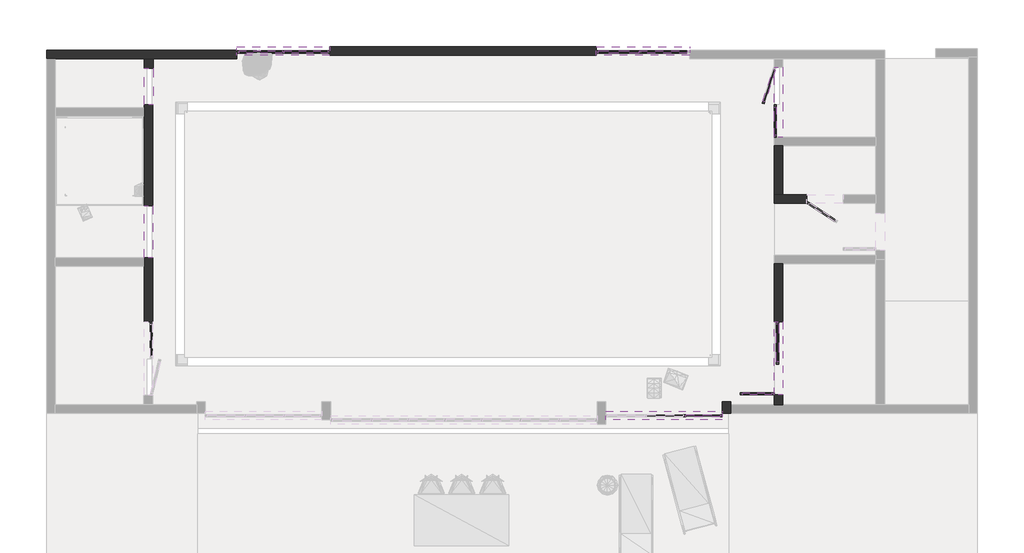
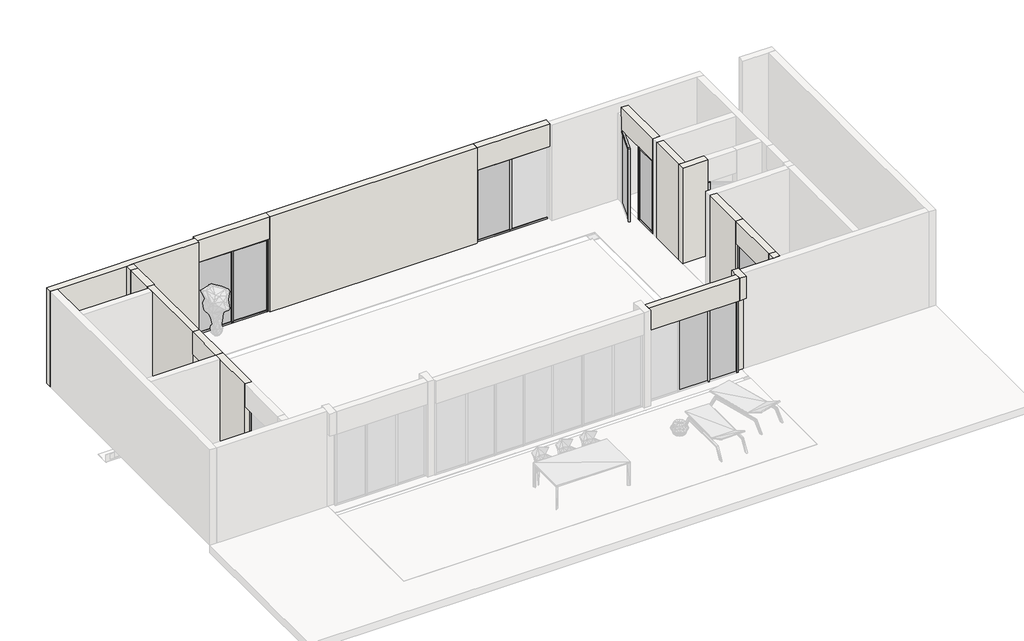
# One storey, part 2 of 3: 34 members, 29 walls, 9 plates.
"""IFC4 building model written with IfcOpenShell, lengths in millimetres."""

from ifc_helpers import new_model, si_unit, frame, origin, origin_with_axes, place, context, project, spatial, polyline, outline, extrude, faceted_brep, transform, mapped, element, save
from components import montante_rectangular_montante_cuadrado_50x50mm_acero_813f6996, montante_rectangular_montante_cuadrado_50x50mm_acero_b99420d8, montante_rectangular_montante_cuadrado_50x50mm_acero_83e1ad39, montante_rectangular_montante_cuadrado_50x50mm_acero_4309ca22, montante_rectangular_montante_cuadrado_50x50mm_acero_b2469dea, montante_rectangular_montante_cuadrado_50x50mm_acero_1148ac7a, montante_rectangular_montante_cuadrado_50x50mm_acero_c9ce966c, montante_rectangular_montante_cuadrado_50x50mm_acero_77c015a5, montante_rectangular_montante_cuadrado_50x50mm_acero_ab25841c, montante_rectangular_montante_cuadrado_50x50mm_acero_d515245e, montante_rectangular_montante_cuadrado_50x50mm_acero_e79a9981, montante_rectangular_montante_cuadrado_50x50mm_acero_05cd54b4, montante_rectangular_montante_cuadrado_50x50mm_acero_2ac5a09f, montante_rectangular_montante_cuadrado_50x50mm_acero_f065012c, montante_rectangular_montante_cuadrado_50x50mm_acero_bf3a267d, montante_rectangular_montante_cuadrado_50x50mm_acero_eaf32c76, montante_rectangular_montante_cuadrado_50x50mm_acero_c8872730, montante_rectangular_montante_cuadrado_50x50mm_acero_14ec3dc0, montante_rectangular_montante_cuadrado_50x50mm_acero_5c9733f6, montante_rectangular_montante_cuadrado_50x50mm_acero_ee5e875f, montante_rectangular_montante_cuadrado_50x50mm_acero_c6ae027b, montante_rectangular_montante_cuadrado_50x50mm_acero_eb120289, montante_rectangular_montante_cuadrado_50x50mm_acero_b4ac1162, montante_rectangular_montante_cuadrado_50x50mm_acero_5bb13b4b, panel_acristalado_panel_acristalado_1cm_45a3c1e2, panel_acristalado_panel_acristalado_1cm_c8c176f6, panel_acristalado_panel_acristalado_1cm_53ca7ac7, panel_acristalado_panel_acristalado_1cm_8548f812, panel_acristalado_panel_acristalado_1cm_0ca00538, panel_acristalado_panel_acristalado_1cm_0280032a, panel_acristalado_panel_acristalado_1cm_0bcb4719, panel_acristalado_panel_acristalado_1cm_c6dde98c, panel_acristalado_panel_acristalado_1cm_dcff6931

model = new_model("IFC4")

# Units and contexts
model_context = context("Model", 3, world=origin())
ifc_project = project(units=[si_unit("LENGTHUNIT", "METRE", prefix="MILLI")], contexts=[model_context])

# Site, building, storey
site = spatial("IfcSite", under=ifc_project)
building = spatial("IfcBuilding", under=site)
storey = spatial("IfcBuildingStorey", under=building, Name="1_NPlaya", Elevation=0.0)

# Members
placement = place(None, origin())
montante_rectangular_montante_cuadrado_50x50mm_acero_shape = montante_rectangular_montante_cuadrado_50x50mm_acero_813f6996(model_context)
element("IfcMember", 1, ObjectType="Montante rectangular : Montante cuadrado 50x50mm_Acero", at=placement, inside=storey, context=model_context, shape_type="MappedRepresentation", body=[
    mapped(montante_rectangular_montante_cuadrado_50x50mm_acero_shape, transform((467.0093267, 8199.7270206, 0.0), x_axis=(0.0, 0.0, -1.0), y_axis=(-1.0, 0.0, 0.0), z_axis=(0.0, 1.0, 0.0))),
])
montante_rectangular_montante_cuadrado_50x50mm_acero_2_shape = montante_rectangular_montante_cuadrado_50x50mm_acero_b99420d8(model_context)
element("IfcMember", 2, ObjectType="Montante rectangular : Montante cuadrado 50x50mm_Acero", at=placement, inside=storey, context=model_context, shape_type="MappedRepresentation", body=[
    mapped(montante_rectangular_montante_cuadrado_50x50mm_acero_2_shape, transform((14974.0093267, 13277.7270206, 0.0), x_axis=(0.0, 1.0, 0.0), y_axis=(1.0, 0.0, 0.0), z_axis=(0.0, 0.0, -1.0))),
])
element("IfcMember", 3, ObjectType="Montante rectangular : Montante cuadrado 50x50mm_Acero", at=placement, inside=storey, context=model_context, shape_type="MappedRepresentation", body=[
    mapped(montante_rectangular_montante_cuadrado_50x50mm_acero_2_shape, transform((14972.5093262, 7271.628904, 0.0), x_axis=(0.0, -1.0, 0.0), y_axis=(-1.0, 0.0, 0.0), z_axis=(0.0, 0.0, -1.0))),
])
element("IfcMember", 4, ObjectType="Montante rectangular : Montante cuadrado 50x50mm_Acero", at=placement, inside=storey, context=model_context, shape_type="MappedRepresentation", body=[
    mapped(montante_rectangular_montante_cuadrado_50x50mm_acero_2_shape, transform((4629.8909719, 14478.7270241, 0.0), x_axis=(1.0, 0.0, 0.0), y_axis=(0.0, -1.0, 0.0), z_axis=(0.0, 0.0, -1.0))),
])
element("IfcMember", 5, ObjectType="Montante rectangular : Montante cuadrado 50x50mm_Acero", at=placement, inside=storey, context=model_context, shape_type="MappedRepresentation", body=[
    mapped(montante_rectangular_montante_cuadrado_50x50mm_acero_2_shape, transform((13720.5093267, 6053.7270206, 0.0), x_axis=(1.0, 0.0, 0.0), y_axis=(0.0, -1.0, 0.0), z_axis=(0.0, 0.0, -1.0))),
])
element("IfcMember", 6, ObjectType="Montante rectangular : Montante cuadrado 50x50mm_Acero", at=placement, inside=storey, context=model_context, shape_type="MappedRepresentation", body=[
    mapped(montante_rectangular_montante_cuadrado_50x50mm_acero_2_shape, transform((14644.2731847, 13313.727027, 0.0), x_axis=(-0.30901699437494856, -0.9510565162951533, 0.0), y_axis=(-0.9510565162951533, 0.30901699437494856, 0.0), z_axis=(0.0, 0.0, -1.0))),
])
montante_rectangular_montante_cuadrado_50x50mm_acero_3_shape = montante_rectangular_montante_cuadrado_50x50mm_acero_83e1ad39(model_context)
element("IfcMember", 7, ObjectType="Montante rectangular : Montante cuadrado 50x50mm_Acero", at=placement, inside=storey, context=model_context, shape_type="MappedRepresentation", body=[
    mapped(montante_rectangular_montante_cuadrado_50x50mm_acero_3_shape, transform((467.0093267, 8249.7270206, 2300.0), x_axis=(0.0, 1.0, 0.0), y_axis=(-1.0, 0.0, 0.0), z_axis=(0.0, 0.0, 1.0))),
])
element("IfcMember", 8, ObjectType="Montante rectangular : Montante cuadrado 50x50mm_Acero", at=placement, inside=storey, context=model_context, shape_type="MappedRepresentation", body=[
    mapped(montante_rectangular_montante_cuadrado_50x50mm_acero_3_shape, transform((14974.0093267, 12527.7270206, 2300.0), x_axis=(0.0, -1.0, 0.0), y_axis=(1.0, 0.0, 0.0), z_axis=(0.0, 0.0, 1.0))),
])
element("IfcMember", 9, ObjectType="Montante rectangular : Montante cuadrado 50x50mm_Acero", at=placement, inside=storey, context=model_context, shape_type="MappedRepresentation", body=[
    mapped(montante_rectangular_montante_cuadrado_50x50mm_acero_3_shape, transform((14972.5093262, 8251.628904, 2300.0), x_axis=(0.0, 1.0, 0.0), y_axis=(-1.0, 0.0, 0.0), z_axis=(0.0, 0.0, 1.0))),
])
element("IfcMember", 10, ObjectType="Montante rectangular : Montante cuadrado 50x50mm_Acero", at=placement, inside=storey, context=model_context, shape_type="MappedRepresentation", body=[
    mapped(montante_rectangular_montante_cuadrado_50x50mm_acero_3_shape, transform((10799.3610615, 14478.7270206, 2300.0), x_axis=(-1.0, 0.0, 0.0), y_axis=(0.0, -1.0, 0.0), z_axis=(0.0, 0.0, 1.0))),
])
element("IfcMember", 11, ObjectType="Montante rectangular : Montante cuadrado 50x50mm_Acero", at=placement, inside=storey, context=model_context, shape_type="MappedRepresentation", body=[
    mapped(montante_rectangular_montante_cuadrado_50x50mm_acero_3_shape, transform((2475.89097, 14478.7270241, 2300.0), x_axis=(-1.0, 0.0, 0.0), y_axis=(0.0, -1.0, 0.0), z_axis=(0.0, 0.0, 1.0))),
])
element("IfcMember", 12, ObjectType="Montante rectangular : Montante cuadrado 50x50mm_Acero", at=placement, inside=storey, context=model_context, shape_type="MappedRepresentation", body=[
    mapped(montante_rectangular_montante_cuadrado_50x50mm_acero_3_shape, transform((15677.7510891, 10993.1760334, 2300.0), x_axis=(-0.8386705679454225, 0.5446390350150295, 0.0), y_axis=(-0.5446390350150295, -0.8386705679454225, 0.0), z_axis=(0.0, 0.0, 1.0))),
])
montante_rectangular_montante_cuadrado_50x50mm_acero_4_shape = montante_rectangular_montante_cuadrado_50x50mm_acero_4309ca22(model_context)
element("IfcMember", 13, ObjectType="Montante rectangular : Montante cuadrado 50x50mm_Acero", at=placement, inside=storey, context=model_context, shape_type="MappedRepresentation", body=[
    mapped(montante_rectangular_montante_cuadrado_50x50mm_acero_4_shape, transform((14974.0093267, 13227.7270206, 2300.0), x_axis=(0.0, 0.0, 1.0), y_axis=(1.0, 0.0, 0.0), z_axis=(0.0, 1.0, 0.0))),
])
montante_rectangular_montante_cuadrado_50x50mm_acero_5_shape = montante_rectangular_montante_cuadrado_50x50mm_acero_b2469dea(model_context)
element("IfcMember", 14, ObjectType="Montante rectangular : Montante cuadrado 50x50mm_Acero", at=placement, inside=storey, context=model_context, shape_type="MappedRepresentation", body=[
    mapped(montante_rectangular_montante_cuadrado_50x50mm_acero_5_shape, transform((14974.0093267, 12577.7270206, 0.0), x_axis=(0.0, 0.0, -1.0), y_axis=(1.0, 0.0, 0.0), z_axis=(0.0, -1.0, 0.0))),
])
montante_rectangular_montante_cuadrado_50x50mm_acero_6_shape = montante_rectangular_montante_cuadrado_50x50mm_acero_1148ac7a(model_context)
element("IfcMember", 15, ObjectType="Montante rectangular : Montante cuadrado 50x50mm_Acero", at=placement, inside=storey, context=model_context, shape_type="MappedRepresentation", body=[
    mapped(montante_rectangular_montante_cuadrado_50x50mm_acero_6_shape, transform((12913.3610627, 14478.7270206, 2300.0), x_axis=(0.0, 0.0, 1.0), y_axis=(0.0, -1.0, 0.0), z_axis=(1.0, 0.0, 0.0))),
])
montante_rectangular_montante_cuadrado_50x50mm_acero_7_shape = montante_rectangular_montante_cuadrado_50x50mm_acero_c9ce966c(model_context)
element("IfcMember", 16, ObjectType="Montante rectangular : Montante cuadrado 50x50mm_Acero", at=placement, inside=storey, context=model_context, shape_type="MappedRepresentation", body=[
    mapped(montante_rectangular_montante_cuadrado_50x50mm_acero_7_shape, transform((10849.3610615, 14478.7270206, 0.0), x_axis=(0.0, 0.0, -1.0), y_axis=(0.0, -1.0, 0.0), z_axis=(-1.0, 0.0, 0.0))),
])
montante_rectangular_montante_cuadrado_50x50mm_acero_8_shape = montante_rectangular_montante_cuadrado_50x50mm_acero_77c015a5(model_context)
element("IfcMember", 17, ObjectType="Montante rectangular : Montante cuadrado 50x50mm_Acero", at=placement, inside=storey, context=model_context, shape_type="MappedRepresentation", body=[
    mapped(montante_rectangular_montante_cuadrado_50x50mm_acero_8_shape, transform((11799.3610615, 14478.7270206, 2300.0), x_axis=(0.0, 0.0, 1.0), y_axis=(0.0, -1.0, 0.0), z_axis=(1.0, 0.0, 0.0))),
])
montante_rectangular_montante_cuadrado_50x50mm_acero_9_shape = montante_rectangular_montante_cuadrado_50x50mm_acero_ab25841c(model_context)
element("IfcMember", 18, ObjectType="Montante rectangular : Montante cuadrado 50x50mm_Acero", at=placement, inside=storey, context=model_context, shape_type="MappedRepresentation", body=[
    mapped(montante_rectangular_montante_cuadrado_50x50mm_acero_9_shape, transform((11799.3610615, 14478.7270206, 0.0), x_axis=(0.0, 0.0, -1.0), y_axis=(0.0, -1.0, 0.0), z_axis=(-1.0, 0.0, 0.0))),
])
montante_rectangular_montante_cuadrado_50x50mm_acero_10_shape = montante_rectangular_montante_cuadrado_50x50mm_acero_d515245e(model_context)
element("IfcMember", 19, ObjectType="Montante rectangular : Montante cuadrado 50x50mm_Acero", at=placement, inside=storey, context=model_context, shape_type="MappedRepresentation", body=[
    mapped(montante_rectangular_montante_cuadrado_50x50mm_acero_10_shape, transform((2525.89097, 14478.7270241, 0.0), x_axis=(0.0, 0.0, -1.0), y_axis=(0.0, -1.0, 0.0), z_axis=(-1.0, 0.0, 0.0))),
])
montante_rectangular_montante_cuadrado_50x50mm_acero_11_shape = montante_rectangular_montante_cuadrado_50x50mm_acero_e79a9981(model_context)
element("IfcMember", 20, ObjectType="Montante rectangular : Montante cuadrado 50x50mm_Acero", at=placement, inside=storey, context=model_context, shape_type="MappedRepresentation", body=[
    mapped(montante_rectangular_montante_cuadrado_50x50mm_acero_11_shape, transform((3525.89097, 14478.7270241, 2300.0), x_axis=(0.0, 0.0, 1.0), y_axis=(0.0, -1.0, 0.0), z_axis=(1.0, 0.0, 0.0))),
])
montante_rectangular_montante_cuadrado_50x50mm_acero_12_shape = montante_rectangular_montante_cuadrado_50x50mm_acero_05cd54b4(model_context)
element("IfcMember", 21, ObjectType="Montante rectangular : Montante cuadrado 50x50mm_Acero", at=placement, inside=storey, context=model_context, shape_type="MappedRepresentation", body=[
    mapped(montante_rectangular_montante_cuadrado_50x50mm_acero_12_shape, transform((13670.5093267, 6053.7270206, 2300.0), x_axis=(0.0, 0.0, 1.0), y_axis=(0.0, -1.0, 0.0), z_axis=(1.0, 0.0, 0.0))),
])
montante_rectangular_montante_cuadrado_50x50mm_acero_13_shape = montante_rectangular_montante_cuadrado_50x50mm_acero_2ac5a09f(model_context)
element("IfcMember", 22, ObjectType="Montante rectangular : Montante cuadrado 50x50mm_Acero", at=placement, inside=storey, context=model_context, shape_type="MappedRepresentation", body=[
    mapped(montante_rectangular_montante_cuadrado_50x50mm_acero_13_shape, transform((15719.6846175, 10965.9440816, 0.0), x_axis=(0.0, 0.0, -1.0), y_axis=(-0.5446390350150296, -0.8386705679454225, 0.0), z_axis=(-0.8386705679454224, 0.5446390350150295, 0.0))),
])
montante_rectangular_montante_cuadrado_50x50mm_acero_14_shape = montante_rectangular_montante_cuadrado_50x50mm_acero_f065012c(model_context)
element("IfcMember", 23, ObjectType="Montante rectangular : Montante cuadrado 50x50mm_Acero", at=placement, inside=storey, context=model_context, shape_type="MappedRepresentation", body=[
    mapped(montante_rectangular_montante_cuadrado_50x50mm_acero_14_shape, transform((14139.0093262, 6558.7270206, 0.0), x_axis=(-1.0, 0.0, 0.0), y_axis=(0.0, 1.0, 0.0), z_axis=(0.0, 0.0, -1.0))),
])
montante_rectangular_montante_cuadrado_50x50mm_acero_15_shape = montante_rectangular_montante_cuadrado_50x50mm_acero_bf3a267d(model_context)
element("IfcMember", 24, ObjectType="Montante rectangular : Montante cuadrado 50x50mm_Acero", at=placement, inside=storey, context=model_context, shape_type="MappedRepresentation", body=[
    mapped(montante_rectangular_montante_cuadrado_50x50mm_acero_15_shape, transform((14919.0093262, 6558.7270206, 2300.0), x_axis=(1.0, 0.0, 0.0), y_axis=(0.0, 1.0, 0.0), z_axis=(0.0, 0.0, 1.0))),
])
montante_rectangular_montante_cuadrado_50x50mm_acero_16_shape = montante_rectangular_montante_cuadrado_50x50mm_acero_eaf32c76(model_context)
element("IfcMember", 25, ObjectType="Montante rectangular : Montante cuadrado 50x50mm_Acero", at=placement, inside=storey, context=model_context, shape_type="MappedRepresentation", body=[
    mapped(montante_rectangular_montante_cuadrado_50x50mm_acero_16_shape, transform((14659.7240344, 13361.2798529, 2300.0), x_axis=(0.0, 0.0, 1.0), y_axis=(-0.9510565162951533, 0.30901699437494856, 0.0), z_axis=(-0.30901699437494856, -0.9510565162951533, 0.0))),
])
montante_rectangular_montante_cuadrado_50x50mm_acero_17_shape = montante_rectangular_montante_cuadrado_50x50mm_acero_c8872730(model_context)
element("IfcMember", 26, ObjectType="Montante rectangular : Montante cuadrado 50x50mm_Acero", at=placement, inside=storey, context=model_context, shape_type="MappedRepresentation", body=[
    mapped(montante_rectangular_montante_cuadrado_50x50mm_acero_17_shape, transform((14189.0093262, 6558.7270206, 2300.0), x_axis=(0.0, 0.0, 1.0), y_axis=(0.0, 1.0, 0.0), z_axis=(-1.0, 0.0, 0.0))),
])
montante_rectangular_montante_cuadrado_50x50mm_acero_18_shape = montante_rectangular_montante_cuadrado_50x50mm_acero_14ec3dc0(model_context)
element("IfcMember", 27, ObjectType="Montante rectangular : Montante cuadrado 50x50mm_Acero", at=placement, inside=storey, context=model_context, shape_type="MappedRepresentation", body=[
    mapped(montante_rectangular_montante_cuadrado_50x50mm_acero_18_shape, transform((14869.0093262, 6558.7270206, 0.0), x_axis=(0.0, 0.0, -1.0), y_axis=(0.0, 1.0, 0.0), z_axis=(1.0, 0.0, 0.0))),
])
montante_rectangular_montante_cuadrado_50x50mm_acero_19_shape = montante_rectangular_montante_cuadrado_50x50mm_acero_5c9733f6(model_context)
element("IfcMember", 28, ObjectType="Montante rectangular : Montante cuadrado 50x50mm_Acero", at=placement, inside=storey, context=model_context, shape_type="MappedRepresentation", body=[
    mapped(montante_rectangular_montante_cuadrado_50x50mm_acero_19_shape, transform((11799.3610615, 14478.7270206, 50.0), x_axis=(1.0, 0.0, 0.0), y_axis=(0.0, -1.0, 0.0), z_axis=(0.0, 0.0, -1.0))),
])
montante_rectangular_montante_cuadrado_50x50mm_acero_20_shape = montante_rectangular_montante_cuadrado_50x50mm_acero_ee5e875f(model_context)
element("IfcMember", 29, ObjectType="Montante rectangular : Montante cuadrado 50x50mm_Acero", at=placement, inside=storey, context=model_context, shape_type="MappedRepresentation", body=[
    mapped(montante_rectangular_montante_cuadrado_50x50mm_acero_20_shape, transform((3525.89097, 14478.7270241, 0.0), x_axis=(1.0, 0.0, 0.0), y_axis=(0.0, -1.0, 0.0), z_axis=(0.0, 0.0, -1.0))),
])
element("IfcMember", 30, ObjectType="Montante rectangular : Montante cuadrado 50x50mm_Acero", at=placement, inside=storey, context=model_context, shape_type="MappedRepresentation", body=[
    mapped(montante_rectangular_montante_cuadrado_50x50mm_acero_20_shape, transform((12820.5093267, 6053.7270206, 0.0), x_axis=(1.0, 0.0, 0.0), y_axis=(0.0, -1.0, 0.0), z_axis=(0.0, 0.0, -1.0))),
])
montante_rectangular_montante_cuadrado_50x50mm_acero_21_shape = montante_rectangular_montante_cuadrado_50x50mm_acero_c6ae027b(model_context)
element("IfcMember", 31, ObjectType="Montante rectangular : Montante cuadrado 50x50mm_Acero", at=placement, inside=storey, context=model_context, shape_type="MappedRepresentation", body=[
    mapped(montante_rectangular_montante_cuadrado_50x50mm_acero_21_shape, transform((4579.8909719, 14478.7270241, 2300.0), x_axis=(0.0, 0.0, 1.0), y_axis=(0.0, -1.0, 0.0), z_axis=(1.0, 0.0, 0.0))),
])
montante_rectangular_montante_cuadrado_50x50mm_acero_22_shape = montante_rectangular_montante_cuadrado_50x50mm_acero_eb120289(model_context)
element("IfcMember", 32, ObjectType="Montante rectangular : Montante cuadrado 50x50mm_Acero", at=placement, inside=storey, context=model_context, shape_type="MappedRepresentation", body=[
    mapped(montante_rectangular_montante_cuadrado_50x50mm_acero_22_shape, transform((3575.89097, 14478.7270241, 0.0), x_axis=(0.0, 0.0, -1.0), y_axis=(0.0, -1.0, 0.0), z_axis=(-1.0, 0.0, 0.0))),
])
montante_rectangular_montante_cuadrado_50x50mm_acero_23_shape = montante_rectangular_montante_cuadrado_50x50mm_acero_b4ac1162(model_context)
element("IfcMember", 33, ObjectType="Montante rectangular : Montante cuadrado 50x50mm_Acero", at=placement, inside=storey, context=model_context, shape_type="MappedRepresentation", body=[
    mapped(montante_rectangular_montante_cuadrado_50x50mm_acero_23_shape, transform((14972.5093262, 7321.628904, 2300.0), x_axis=(0.0, 0.0, 1.0), y_axis=(-1.0, 0.0, 0.0), z_axis=(0.0, -1.0, 0.0))),
])
montante_rectangular_montante_cuadrado_50x50mm_acero_24_shape = montante_rectangular_montante_cuadrado_50x50mm_acero_5bb13b4b(model_context)
element("IfcMember", 34, ObjectType="Montante rectangular : Montante cuadrado 50x50mm_Acero", at=placement, inside=storey, context=model_context, shape_type="MappedRepresentation", body=[
    mapped(montante_rectangular_montante_cuadrado_50x50mm_acero_24_shape, transform((14972.5093262, 8201.628904, 0.0), x_axis=(0.0, 0.0, -1.0), y_axis=(-1.0, 0.0, 0.0), z_axis=(0.0, 1.0, 0.0))),
])

# Plates
panel_acristalado_panel_acristalado_1cm_shape = panel_acristalado_panel_acristalado_1cm_45a3c1e2(model_context)
element("IfcPlate", 35, ObjectType="Panel acristalado : Panel acristalado 1cm", at=placement, inside=storey, context=model_context, shape_type="MappedRepresentation", body=[
    mapped(panel_acristalado_panel_acristalado_1cm_shape, transform((14974.0093267, 12902.7270206, 50.0), x_axis=(0.0, 1.0, 0.0), y_axis=(-1.0, 0.0, 0.0), z_axis=(0.0, 0.0, 1.0))),
])
panel_acristalado_panel_acristalado_1cm_2_shape = panel_acristalado_panel_acristalado_1cm_c8c176f6(model_context)
element("IfcPlate", 36, ObjectType="Panel acristalado : Panel acristalado 1cm", at=placement, inside=storey, context=model_context, shape_type="MappedRepresentation", body=[
    mapped(panel_acristalado_panel_acristalado_1cm_2_shape, transform((11324.3610615, 14478.7270206, 50.0), x_axis=(1.0, 0.0, 0.0), y_axis=(0.0, 1.0, 0.0), z_axis=(0.0, 0.0, 1.0))),
])
panel_acristalado_panel_acristalado_1cm_3_shape = panel_acristalado_panel_acristalado_1cm_53ca7ac7(model_context)
element("IfcPlate", 37, ObjectType="Panel acristalado : Panel acristalado 1cm", at=placement, inside=storey, context=model_context, shape_type="MappedRepresentation", body=[
    mapped(panel_acristalado_panel_acristalado_1cm_3_shape, transform((3025.89097, 14478.7270241, 50.0), x_axis=(1.0, 0.0, 0.0), y_axis=(0.0, 1.0, 0.0), z_axis=(0.0, 0.0, 1.0))),
])
panel_acristalado_panel_acristalado_1cm_4_shape = panel_acristalado_panel_acristalado_1cm_8548f812(model_context)
element("IfcPlate", 38, ObjectType="Panel acristalado : Panel acristalado 1cm", at=placement, inside=storey, context=model_context, shape_type="MappedRepresentation", body=[
    mapped(panel_acristalado_panel_acristalado_1cm_4_shape, transform((12395.5093267, 6053.7270206, 50.0), x_axis=(1.0, 0.0, 0.0), y_axis=(0.0, 1.0, 0.0), z_axis=(0.0, 0.0, 1.0))),
])
panel_acristalado_panel_acristalado_1cm_5_shape = panel_acristalado_panel_acristalado_1cm_0ca00538(model_context)
element("IfcPlate", 39, ObjectType="Panel acristalado : Panel acristalado 1cm", at=placement, inside=storey, context=model_context, shape_type="MappedRepresentation", body=[
    mapped(panel_acristalado_panel_acristalado_1cm_5_shape, transform((13270.5093267, 6053.7270206, 50.0), x_axis=(1.0, 0.0, 0.0), y_axis=(0.0, 1.0, 0.0), z_axis=(0.0, 0.0, 1.0))),
])
panel_acristalado_panel_acristalado_1cm_6_shape = panel_acristalado_panel_acristalado_1cm_0280032a(model_context)
element("IfcPlate", 40, ObjectType="Panel acristalado : Panel acristalado 1cm", at=placement, inside=storey, context=model_context, shape_type="MappedRepresentation", body=[
    mapped(panel_acristalado_panel_acristalado_1cm_6_shape, transform((14779.8912557, 13731.1165315, 50.0), x_axis=(-0.30901699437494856, -0.9510565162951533, 0.0), y_axis=(0.9510565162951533, -0.30901699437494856, 0.0), z_axis=(0.0, 0.0, 1.0))),
])
panel_acristalado_panel_acristalado_1cm_7_shape = panel_acristalado_panel_acristalado_1cm_0bcb4719(model_context)
element("IfcPlate", 41, ObjectType="Panel acristalado : Panel acristalado 1cm", at=placement, inside=storey, context=model_context, shape_type="MappedRepresentation", body=[
    mapped(panel_acristalado_panel_acristalado_1cm_7_shape, transform((14529.0093262, 6558.7270206, 50.0), x_axis=(-1.0, 0.0, 0.0), y_axis=(0.0, -1.0, 0.0), z_axis=(0.0, 0.0, 1.0))),
])
panel_acristalado_panel_acristalado_1cm_8_shape = panel_acristalado_panel_acristalado_1cm_c6dde98c(model_context)
element("IfcPlate", 42, ObjectType="Panel acristalado : Panel acristalado 1cm", at=placement, inside=storey, context=model_context, shape_type="MappedRepresentation", body=[
    mapped(panel_acristalado_panel_acristalado_1cm_8_shape, transform((4077.8909709, 14478.7270241, 50.0), x_axis=(1.0, 0.0, 0.0), y_axis=(0.0, 1.0, 0.0), z_axis=(0.0, 0.0, 1.0))),
])
panel_acristalado_panel_acristalado_1cm_9_shape = panel_acristalado_panel_acristalado_1cm_dcff6931(model_context)
element("IfcPlate", 43, ObjectType="Panel acristalado : Panel acristalado 1cm", at=placement, inside=storey, context=model_context, shape_type="MappedRepresentation", body=[
    mapped(panel_acristalado_panel_acristalado_1cm_9_shape, transform((14972.5093262, 7761.628904, 50.0), x_axis=(0.0, -1.0, 0.0), y_axis=(1.0, 0.0, 0.0), z_axis=(0.0, 0.0, 1.0))),
])

# Walls
element("IfcWall", 44, ObjectType="Pieza 316_Patrón 1/3_Tresor_Java_Anti-Slip", at=placement, inside=storey, context=model_context, shape_type="SweptSolid", body=[
    extrude(outline(polyline([(9030.8107291, 9024.7270206), (5710.5825295, 9024.7270206), (5710.5825295, 9033.7270206), (9030.8107291, 9033.7270206), (9030.8107291, 9024.7270206)])), frame((0.0, 0.0, -1279.9734114), z_axis=(0.0, 0.0, 1.0), x_axis=(1.0, 0.0, 0.0)), (0.0, 0.0, 1.0), 157.9734114),
])
element("IfcWall", 45, ObjectType="Pieza 316_Patrón 1/3_Tresor_Java_Anti-Slip", at=placement, inside=storey, context=model_context, shape_type="Brep", body=[
    faceted_brep([(8770.5093267, 8738.2270206, -1085.0), (5970.5093267, 8738.2270206, -1085.0), (5970.5093267, 8738.2270206, -1067.4462632), (6010.5825295, 8738.2270206, -1067.4462632), (6010.5825295, 8738.2270206, -910.9413919), (8730.5641763, 8738.2270206, -910.9413919), (8730.5641763, 8738.2270206, -1066.1962632), (8770.5093267, 8738.2270206, -1066.1962632), (8770.5093267, 8729.2270206, -1085.0), (8770.5093267, 8729.2270206, -1066.1962632), (8761.5093267, 8729.2270206, -1066.1962632), (8730.5641763, 8729.2270206, -1066.1962632), (8730.5641763, 8729.2270206, -910.9413919), (6010.5825295, 8729.2270206, -910.9413919), (6010.5825295, 8729.2270206, -1067.4462632), (5979.5093267, 8729.2270206, -1067.4462632), (5970.5093267, 8729.2270206, -1067.4462632), (5970.5093267, 8729.2270206, -1085.0)], [[[0, 1, 2, 3, 4, 5, 6, 7]], [[8, 9, 10, 11, 12, 13, 14, 15, 16, 17]], [[2, 1, 17, 16]], [[0, 7, 9, 8]], [[1, 0, 8, 17]], [[5, 4, 13, 12]], [[3, 2, 16, 15, 14]], [[4, 3, 14, 13]], [[6, 5, 12, 11]], [[7, 6, 11, 10, 9]]]),
])
element("IfcWall", 46, ObjectType="Pieza 316_Patrón 1/3_Tresor_Java_Anti-Slip", at=placement, inside=storey, context=model_context, shape_type="Brep", body=[
    faceted_brep([(5970.5093267, 8729.2270206, -1099.9248475), (5970.5093267, 7513.7270206, -1099.9248475), (5970.5093267, 7513.7270206, -910.9413919), (5970.5093267, 8698.1534231, -910.9413919), (5970.5093267, 8698.1534231, -1067.4462632), (5970.5093267, 8729.2270206, -1067.4462632), (5970.5093267, 8729.2270206, -1085.0), (5979.5093267, 8729.2270206, -1099.9248475), (5979.5093267, 8729.2270206, -1067.4462632), (5979.5093267, 8698.1534231, -1067.4462632), (5979.5093267, 8698.1534231, -910.9413919), (5979.5093267, 7513.7270206, -910.9413919), (5979.5093267, 7513.7270206, -1087.5), (5979.5093267, 7513.7270206, -1099.9248475)], [[[0, 1, 2, 3, 4, 5, 6]], [[7, 8, 9, 10, 11, 12, 13]], [[0, 6, 5, 8, 7]], [[2, 1, 13, 12, 11]], [[1, 0, 7, 13]], [[3, 2, 11, 10]], [[4, 3, 10, 9]], [[5, 4, 9, 8]]]),
])
element("IfcWall", 47, ObjectType="Pieza 316_Patrón 1/3_Tresor_Java_Anti-Slip", at=placement, inside=storey, context=model_context, shape_type="Brep", body=[
    faceted_brep([(6279.5093267, 8424.7270206, -873.9413919), (8461.5093267, 8424.7270206, -873.9413919), (8470.5093267, 8424.7270206, -873.9413919), (8470.5093267, 8424.7270206, -841.1962632), (8461.5093267, 8424.7270206, -841.1962632), (8430.8107291, 8424.7270206, -841.1962632), (8430.8107291, 8424.7270206, -685.9413919), (6310.5825295, 8424.7270206, -685.9413919), (6310.5825295, 8424.7270206, -842.4462632), (6279.5093267, 8424.7270206, -842.4462632), (6279.5093267, 8433.7270206, -873.9413919), (6279.5093267, 8433.7270206, -842.4462632), (6310.5825295, 8433.7270206, -842.4462632), (6310.5825295, 8433.7270206, -685.9413919), (8430.8107291, 8433.7270206, -685.9413919), (8430.8107291, 8433.7270206, -841.1962632), (8470.5093267, 8433.7270206, -841.1962632), (8470.5093267, 8433.7270206, -873.9413919)], [[[0, 1, 2, 3, 4, 5, 6, 7, 8, 9]], [[10, 11, 12, 13, 14, 15, 16, 17]], [[0, 9, 11, 10]], [[3, 2, 17, 16]], [[2, 1, 0, 10, 17]], [[7, 6, 14, 13]], [[5, 4, 3, 16, 15]], [[6, 5, 15, 14]], [[8, 7, 13, 12]], [[9, 8, 12, 11]]]),
])
element("IfcWall", 48, ObjectType="Pieza 316_Patrón 1/3_Tresor_Java_Anti-Slip", at=placement, inside=storey, context=model_context, shape_type="SweptSolid", body=[
    extrude(outline(polyline([(9061.5093267, 7513.7270206), (9061.5093267, 8993.7219129), (9070.5093267, 8993.7219129), (9070.5093267, 7513.7270206), (9061.5093267, 7513.7270206)])), frame((0.0, 0.0, -1279.9734114), z_axis=(0.0, 0.0, 1.0), x_axis=(1.0, 0.0, 0.0)), (0.0, 0.0, 1.0), 157.9734114),
])
element("IfcWall", 49, ObjectType="Pieza 316_Patrón 1/3_Tresor_Java_Anti-Slip", at=placement, inside=storey, context=model_context, shape_type="SweptSolid", body=[
    extrude(outline(polyline([(5679.5093267, 8993.6534231), (5679.5093267, 7513.7270206), (5670.5093267, 7513.7270206), (5670.5093267, 8993.6534231), (5679.5093267, 8993.6534231)])), frame((0.0, 0.0, -1279.9734114), z_axis=(0.0, 0.0, 1.0), x_axis=(1.0, 0.0, 0.0)), (0.0, 0.0, 1.0), 157.9734114),
])
element("IfcWall", 50, ObjectType="Pieza 316_Patrón 1/3_Tresor_Java_Anti-Slip", at=placement, inside=storey, context=model_context, shape_type="Brep", body=[
    faceted_brep([(6579.5093267, 8124.7270206, -648.9413919), (8161.5093267, 8124.7270206, -648.9413919), (8170.5093267, 8124.7270206, -648.9413919), (8170.5093267, 8124.7270206, -616.1962632), (8161.5093267, 8124.7270206, -616.1962632), (8130.4982291, 8124.7270206, -616.1962632), (8130.4982291, 8124.7270206, -461.9413919), (6610.5825295, 8124.7270206, -461.9413919), (6610.5825295, 8124.7270206, -617.4462632), (6579.5093267, 8124.7270206, -617.4462632), (6579.5093267, 8133.7270206, -648.9413919), (6579.5093267, 8133.7270206, -617.4462632), (6610.5825295, 8133.7270206, -617.4462632), (6610.5825295, 8133.7270206, -461.9413919), (8130.4982291, 8133.7270206, -461.9413919), (8130.4982291, 8133.7270206, -616.1962632), (8170.5093267, 8133.7270206, -616.1962632), (8170.5093267, 8133.7270206, -648.9413919)], [[[0, 1, 2, 3, 4, 5, 6, 7, 8, 9]], [[10, 11, 12, 13, 14, 15, 16, 17]], [[0, 9, 11, 10]], [[3, 2, 17, 16]], [[2, 1, 0, 10, 17]], [[7, 6, 14, 13]], [[5, 4, 3, 16, 15]], [[6, 5, 15, 14]], [[8, 7, 13, 12]], [[9, 8, 12, 11]]]),
])
element("IfcWall", 51, ObjectType="Pieza 316_Patrón 1/3_Tresor_Java_Anti-Slip", at=placement, inside=storey, context=model_context, shape_type="Brep", body=[
    faceted_brep([(8761.5093267, 8729.2270206, -1098.9413919), (8761.5093267, 7513.7270206, -1098.9413919), (8761.5093267, 7513.7270206, -1087.5), (8761.5093267, 7513.7270206, -910.9413919), (8761.5093267, 8698.3895481, -910.9413919), (8761.5093267, 8698.3895481, -1066.1962632), (8761.5093267, 8729.2270206, -1066.1962632), (8770.5093267, 8729.2270206, -1098.9413919), (8770.5093267, 8729.2270206, -1085.0), (8770.5093267, 8729.2270206, -1066.1962632), (8770.5093267, 8698.3895481, -1066.1962632), (8770.5093267, 8698.3895481, -910.9413919), (8770.5093267, 7513.7270206, -910.9413919), (8770.5093267, 7513.7270206, -1098.9413919)], [[[0, 1, 2, 3, 4, 5, 6]], [[7, 8, 9, 10, 11, 12, 13]], [[0, 6, 9, 8, 7]], [[3, 2, 1, 13, 12]], [[1, 0, 7, 13]], [[4, 3, 12, 11]], [[5, 4, 11, 10]], [[6, 5, 10, 9]]]),
])
element("IfcWall", 52, ObjectType="Pieza 316_Patrón 1/3_Tresor_Java_Anti-Slip", at=placement, inside=storey, context=model_context, shape_type="SweptSolid", body=[
    extrude(outline(polyline([(2185.5093267, 9874.9770206), (2185.5093267, 7513.7270206), (2176.5093267, 7513.7270206), (2176.5093267, 9874.9770206), (2185.5093267, 9874.9770206)])), frame((0.0, 0.0, -1279.9734114), z_axis=(0.0, 0.0, 1.0), x_axis=(1.0, 0.0, 0.0)), (0.0, 0.0, 1.0), 210.0),
])
element("IfcWall", 53, ObjectType="Pieza 316_Patrón 1/3_Tresor_Java_Anti-Slip", at=placement, inside=storey, context=model_context, shape_type="SweptSolid", body=[
    extrude(outline(polyline([(-1279.9734114, 2145.5093267), (-1069.9734114, 2145.5093267), (-1069.9734114, 1836.5093267), (-489.9734114, 1836.5093267), (-489.9734114, 1441.7656669), (-143.5942572, 1348.7863922), (-1069.9734114, 1348.7863922), (-1279.9734114, 1348.7863922), (-1279.9734114, 2145.5093267)])), frame((0.0, 9905.9770206, 0.0), z_axis=(0.0, 1.0, 0.0), x_axis=(0.0, 0.0, 1.0)), (0.0, 0.0, 1.0), 9.0),
])
element("IfcWall", 54, ObjectType="Pieza 316_Patrón 1/3_Tresor_Java_Anti-Slip", at=placement, inside=storey, context=model_context, shape_type="SweptSolid", body=[
    extrude(outline(polyline([(1876.5093267, 9874.9770206), (1876.5093267, 7513.7270206), (1867.5093267, 7513.7270206), (1867.5093267, 9874.9770206), (1876.5093267, 9874.9770206)])), frame((0.0, 0.0, -999.9468229), z_axis=(0.0, 0.0, 1.0), x_axis=(1.0, 0.0, 0.0)), (0.0, 0.0, 1.0), 509.9734114),
])
element("IfcWall", 55, ObjectType="GENÉRICO_MURO BASE 20 cm", at=placement, inside=storey, context=model_context, shape_type="Brep", body=[
    faceted_brep([(2475.89097, 14543.7270206, 0.0), (-1934.4906752, 14543.7270206, 0.0), (-1934.4906752, 14543.7270206, 3000.0), (2475.89097, 14543.7270206, 3000.0), (2475.89097, 14343.7270206, 0.0), (2475.89097, 14343.7270206, 3000.0), (531.8625408, 14343.7270206, 3000.0), (331.8625408, 14343.7270206, 3000.0), (-1734.4906752, 14343.7270206, 3000.0), (-1934.4906752, 14343.7270206, 3000.0), (-1934.4906752, 14343.7270206, 0.0), (-1734.4906752, 14343.7270206, 0.0), (331.8625408, 14343.7270206, 0.0), (531.8625408, 14343.7270206, 0.0), (2475.89097, 14428.7270241, 3000.0)], [[[0, 1, 2, 3]], [[4, 5, 6, 7, 8, 9, 10, 11, 12, 13]], [[1, 0, 4, 13, 12, 11, 10]], [[3, 2, 9, 8, 7, 6, 5, 14]], [[0, 3, 14, 5, 4]], [[2, 1, 10, 9]]]),
])
element("IfcWall", 56, ObjectType="GENÉRICO_MURO BASE 20 cm", at=placement, inside=storey, context=model_context, shape_type="Brep", body=[
    faceted_brep([(523.5093229, 8249.7270206, 0.0), (523.5093229, 9735.7270206, 0.0), (523.5093229, 9735.7270206, 2300.0), (523.5093229, 9735.7270206, 3000.0), (523.5093229, 8249.7270206, 3000.0), (523.5093229, 8249.7270206, 2300.0), (323.5093229, 8249.7270206, 0.0), (323.5093229, 8249.7270206, 2300.0), (323.5093229, 8249.7270206, 3000.0), (323.5093229, 9535.7270206, 3000.0), (323.5093229, 9735.7270206, 3000.0), (323.5093229, 9735.7270206, 2300.0), (323.5093229, 9735.7270206, 0.0), (323.5093229, 9535.7270206, 0.0)], [[[0, 1, 2, 3, 4, 5]], [[6, 7, 8, 9, 10, 11, 12, 13]], [[1, 0, 6, 13, 12]], [[4, 3, 10, 9, 8]], [[0, 5, 4, 8, 7, 6]], [[1, 12, 11, 10, 3, 2]]]),
])
element("IfcWall", 57, ObjectType="GENÉRICO_MURO BASE 20 cm", at=placement, inside=storey, context=model_context, shape_type="Brep", body=[
    faceted_brep([(523.5093229, 10938.7270282, 0.0), (523.5093229, 13278.7270282, 0.0), (523.5093229, 13278.7270282, 3000.0), (523.5093229, 10938.7270282, 3000.0), (523.5093229, 10938.7270282, 2300.0), (323.5093229, 10938.7270282, 0.0), (323.5093229, 10938.7270282, 2300.0), (323.5093229, 10938.7270282, 3000.0), (323.5093229, 13012.2270206, 3000.0), (323.5093229, 13212.2270206, 3000.0), (323.5093229, 13278.7270282, 3000.0), (323.5093229, 13278.7270282, 0.0), (323.5093229, 13212.2270206, 0.0), (323.5093229, 13012.2270206, 0.0), (331.8625408, 13278.7270282, 3000.0)], [[[0, 1, 2, 3, 4]], [[5, 6, 7, 8, 9, 10, 11, 12, 13]], [[1, 0, 5, 13, 12, 11]], [[2, 1, 11, 10, 14]], [[3, 2, 14, 10, 9, 8, 7]], [[0, 4, 3, 7, 6, 5]]]),
])
element("IfcWall", 58, ObjectType="GENÉRICO_MURO BASE 20 cm", at=placement, inside=storey, context=model_context, shape_type="Brep", body=[
    faceted_brep([(531.8625408, 14127.7270241, 0.0), (531.8625408, 14343.7270206, 0.0), (531.8625408, 14343.7270206, 3000.0), (531.8625408, 14127.7270241, 3000.0), (531.8625408, 14127.7270241, 2300.0), (331.8625408, 14127.7270241, 0.0), (331.8625408, 14127.7270241, 2300.0), (331.8625408, 14127.7270241, 3000.0), (331.8625408, 14343.7270206, 3000.0), (331.8625408, 14343.7270206, 0.0)], [[[0, 1, 2, 3, 4]], [[5, 6, 7, 8, 9]], [[1, 0, 5, 9]], [[3, 2, 8, 7]], [[0, 4, 3, 7, 6, 5]], [[2, 1, 9, 8]]]),
])
element("IfcWall", 59, ObjectType="GENÉRICO_MURO BASE 20 cm", at=placement, inside=storey, context=model_context, shape_type="Brep", body=[
    faceted_brep([(4629.8909719, 14428.7270241, -9.0), (10799.3610615, 14428.7270241, -9.0), (10799.3610615, 14428.7270241, 2300.0), (10799.3610615, 14428.7270241, 3000.0), (4629.8909719, 14428.7270241, 3000.0), (4629.8909719, 14428.7270241, 2300.0), (4629.8909719, 14628.7270241, -9.0), (4629.8909719, 14628.7270241, 2300.0), (4629.8909719, 14628.7270241, 3000.0), (10799.3610615, 14628.7270241, 3000.0), (10799.3610615, 14628.7270241, 2300.0), (10799.3610615, 14628.7270241, -9.0)], [[[0, 1, 2, 3, 4, 5]], [[6, 7, 8, 9, 10, 11]], [[1, 0, 6, 11]], [[3, 2, 1, 11, 10, 9]], [[4, 3, 9, 8]], [[0, 5, 4, 8, 7, 6]]]),
])
element("IfcWall", 60, ObjectType="GENÉRICO_MURO BASE 20 cm", at=placement, inside=storey, context=model_context, shape_type="Brep", body=[
    faceted_brep([(14919.0093267, 6558.7270206, 0.0), (14919.0093267, 6333.7270206, 0.0), (14919.0093267, 6333.7270206, 3000.0), (14919.0093267, 6558.7270206, 3000.0), (14919.0093267, 6558.7270206, 2300.0), (15119.0093267, 6558.7270206, 0.0), (15119.0093267, 6558.7270206, 2300.0), (15119.0093267, 6558.7270206, 3000.0), (15119.0093267, 6333.7270206, 3000.0), (15119.0093267, 6333.7270206, 0.0)], [[[0, 1, 2, 3, 4]], [[5, 6, 7, 8, 9]], [[1, 0, 5, 9]], [[3, 2, 8, 7]], [[0, 4, 3, 7, 6, 5]], [[2, 1, 9, 8]]]),
])
element("IfcWall", 61, ObjectType="GENÉRICO_MURO BASE 20 cm", at=placement, inside=storey, context=model_context, shape_type="Brep", body=[
    faceted_brep([(15119.0093262, 8251.628904, 0.0), (15119.0093262, 9594.6760334, 0.0), (15119.0093262, 9594.6760334, 3000.0), (15119.0093262, 8251.628904, 3000.0), (15119.0093262, 8251.628904, 2300.0), (14919.0093262, 8251.628904, 0.0), (14919.0093262, 8251.628904, 2300.0), (14919.0093262, 8251.628904, 3000.0), (14919.0093262, 9594.6760334, 3000.0), (14919.0093262, 9594.6760334, 0.0)], [[[0, 1, 2, 3, 4]], [[5, 6, 7, 8, 9]], [[1, 0, 5, 9]], [[3, 2, 8, 7]], [[0, 4, 3, 7, 6, 5]], [[2, 1, 9, 8]]]),
])
element("IfcWall", 62, ObjectType="GENÉRICO_MURO BASE 20 cm", at=placement, inside=storey, context=model_context, shape_type="Brep", body=[
    faceted_brep([(15677.7510891, 11193.1760334, 0.0), (15119.0093262, 11193.1760334, 0.0), (14919.0093262, 11193.1760334, 0.0), (14919.0093262, 11193.1760334, 3000.0), (15119.0093262, 11193.1760334, 3000.0), (15677.7510891, 11193.1760334, 3000.0), (15677.7510891, 11193.1760334, 2300.0), (15677.7510891, 10993.1760334, 0.0), (15677.7510891, 10993.1760334, 2300.0), (15677.7510891, 10993.1760334, 3000.0), (14919.0093262, 10993.1760334, 3000.0), (14919.0093262, 10993.1760334, 0.0)], [[[0, 1, 2, 3, 4, 5, 6]], [[7, 8, 9, 10, 11]], [[2, 1, 0, 7, 11]], [[5, 4, 3, 10, 9]], [[0, 6, 5, 9, 8, 7]], [[3, 2, 11, 10]]]),
])
element("IfcWall", 63, ObjectType="GENÉRICO_MURO BASE 20 cm", at=placement, inside=storey, context=model_context, shape_type="SweptSolid", body=[
    extrude(outline(polyline([(15119.0093262, 12327.7270206), (15119.0093262, 11193.1760334), (14919.0093262, 11193.1760334), (14919.0093262, 12327.7270206), (15119.0093262, 12327.7270206)])), origin_with_axes(), (0.0, 0.0, 1.0), 3000.0),
])
element("IfcWall", 64, ObjectType="GENÉRICO_MURO BASE 20 cm", at=placement, inside=storey, context=model_context, shape_type="Brep", body=[
    faceted_brep([(10799.3610615, 14428.7270241, 2300.0), (12963.3610627, 14428.7270241, 2300.0), (12963.3610627, 14428.7270241, 3000.0), (10799.3610615, 14428.7270241, 3000.0), (10799.3610615, 14628.7270241, 2300.0), (10799.3610615, 14628.7270241, 3000.0), (12963.3610627, 14628.7270241, 3000.0), (12963.3610627, 14628.7270241, 2300.0), (12963.3610627, 14543.7270206, 3000.0)], [[[0, 1, 2, 3]], [[4, 5, 6, 7]], [[1, 0, 4, 7]], [[2, 1, 7, 6, 8]], [[3, 2, 8, 6, 5]], [[0, 3, 5, 4]]]),
])
element("IfcWall", 65, ObjectType="GENÉRICO_MURO BASE 20 cm", at=placement, inside=storey, context=model_context, shape_type="Brep", body=[
    faceted_brep([(4629.8909719, 14628.7270241, 2300.0), (2475.89097, 14628.7270241, 2300.0), (2475.89097, 14628.7270241, 3000.0), (4629.8909719, 14628.7270241, 3000.0), (4629.8909719, 14428.7270241, 2300.0), (4629.8909719, 14428.7270241, 3000.0), (2475.89097, 14428.7270241, 3000.0), (2475.89097, 14428.7270241, 2300.0), (2475.89097, 14543.7270206, 3000.0)], [[[0, 1, 2, 3]], [[4, 5, 6, 7]], [[1, 0, 4, 7]], [[2, 1, 7, 6, 8]], [[3, 2, 8, 6, 5]], [[0, 3, 5, 4]]]),
])
element("IfcWall", 66, ObjectType="GENÉRICO_MURO BASE 20 cm", at=placement, inside=storey, context=model_context, shape_type="Brep", body=[
    faceted_brep([(331.8625408, 14127.7270241, 2300.0), (331.8625408, 13278.7270282, 2300.0), (331.8625408, 13278.7270282, 3000.0), (331.8625408, 14127.7270241, 3000.0), (531.8625408, 14127.7270241, 2300.0), (531.8625408, 14127.7270241, 3000.0), (531.8625408, 13278.7270282, 3000.0), (531.8625408, 13278.7270282, 2300.0), (523.5093229, 13278.7270282, 3000.0)], [[[0, 1, 2, 3]], [[4, 5, 6, 7]], [[1, 0, 4, 7]], [[2, 1, 7, 6, 8]], [[3, 2, 8, 6, 5]], [[0, 3, 5, 4]]]),
])
element("IfcWall", 67, ObjectType="GENÉRICO_MURO BASE 20 cm", at=placement, inside=storey, context=model_context, shape_type="SweptSolid", body=[
    extrude(outline(polyline([(323.5093229, 9735.7270206), (323.5093229, 10938.7270282), (523.5093229, 10938.7270282), (523.5093229, 9735.7270206), (323.5093229, 9735.7270206)])), frame((0.0, 0.0, 2300.0), z_axis=(0.0, 0.0, 1.0), x_axis=(1.0, 0.0, 0.0)), (0.0, 0.0, 1.0), 700.0),
])
element("IfcWall", 68, ObjectType="GENÉRICO_MURO BASE 20 cm", at=placement, inside=storey, context=model_context, shape_type="SweptSolid", body=[
    extrude(outline(polyline([(15119.0093267, 8251.628904), (15119.0093267, 6558.7270206), (14919.0093267, 6558.7270206), (14919.0093267, 8251.628904), (15119.0093267, 8251.628904)])), frame((0.0, 0.0, 2300.0), z_axis=(0.0, 0.0, 1.0), x_axis=(1.0, 0.0, 0.0)), (0.0, 0.0, 1.0), 700.0),
])
element("IfcWall", 69, ObjectType="GENÉRICO_MURO BASE 20 cm", at=placement, inside=storey, context=model_context, shape_type="Brep", body=[
    faceted_brep([(14920.5093267, 14148.7270206, 2300.0), (14920.5093267, 12527.7270206, 2300.0), (14920.5093267, 12527.7270206, 3000.0), (14920.5093267, 14148.7270206, 3000.0), (14920.5093267, 14148.7270206, 2700.0), (15120.5093267, 14148.7270206, 2300.0), (15120.5093267, 14148.7270206, 2700.0), (15120.5093267, 14148.7270206, 3000.0), (15120.5093267, 12527.7270206, 3000.0), (15120.5093267, 12527.7270206, 2300.0)], [[[0, 1, 2, 3, 4]], [[5, 6, 7, 8, 9]], [[1, 0, 5, 9]], [[3, 2, 8, 7]], [[0, 4, 3, 7, 6, 5]], [[2, 1, 9, 8]]]),
])
element("IfcWall", 70, ObjectType="GENÉRICO_MURO BASE 20 cm", at=placement, inside=storey, context=model_context, shape_type="Brep", body=[
    faceted_brep([(13920.5093267, 6133.7270206, 0.0), (13920.5093267, 6333.7270206, 0.0), (13920.5093267, 6398.7270206, 0.0), (13920.5093267, 6398.7270206, 3000.0), (13920.5093267, 6333.7270206, 3000.0), (13920.5093267, 6133.7270206, 3000.0), (13920.5093267, 5978.7270206, 3000.0), (13920.5093267, 5978.7270206, 2300.0), (13920.5093267, 6133.7270206, 2300.0), (13720.5093267, 6133.7270206, 0.0), (13720.5093267, 6133.7270206, 2300.0), (13720.5093267, 5978.7270206, 2300.0), (13720.5093267, 5978.7270206, 3000.0), (13720.5093267, 6178.7270206, 3000.0), (13720.5093267, 6398.7270206, 3000.0), (13720.5093267, 6398.7270206, 0.0)], [[[0, 1, 2, 3, 4, 5, 6, 7, 8]], [[9, 10, 11, 12, 13, 14, 15]], [[2, 1, 0, 9, 15]], [[3, 2, 15, 14]], [[6, 5, 4, 3, 14, 13, 12]], [[7, 11, 10, 8]], [[0, 8, 10, 9]], [[7, 6, 12, 11]]]),
])
element("IfcWall", 71, ObjectType="GENÉRICO_MURO BASE 20 cm", at=placement, inside=storey, context=model_context, shape_type="Brep", body=[
    faceted_brep([(11020.5093267, 5978.7270206, 2300.0), (13720.5093267, 5978.7270206, 2300.0), (13720.5093267, 5978.7270206, 3000.0), (11020.5093267, 5978.7270206, 3000.0), (11020.5093267, 6178.7270206, 2300.0), (11020.5093267, 6178.7270206, 3000.0), (13720.5093267, 6178.7270206, 3000.0), (13720.5093267, 6178.7270206, 2300.0), (13720.5093267, 6133.7270206, 2300.0)], [[[0, 1, 2, 3]], [[4, 5, 6, 7]], [[1, 0, 4, 7, 8]], [[3, 2, 6, 5]], [[0, 3, 5, 4]], [[2, 1, 8, 7, 6]]]),
])
element("IfcWall", 72, ObjectType="Pieza 316_Patrón 1/3_Tresor_Java_Anti-Slip", at=placement, inside=storey, context=model_context, shape_type="SweptSolid", body=[
    extrude(outline(polyline([(-450.0, 1474.2260977), (-304.428851, 1432.4842425), (-304.428851, 1423.1215475), (-450.0, 1464.8634028), (-450.0, 1474.2260977)])), frame((0.0, 7514.4338077, 0.0), z_axis=(0.0, 1.0, 0.0), x_axis=(0.0, 0.0, 1.0)), (0.0, 0.0, 1.0), 2360.5432129),
])

save(model, "model.ifc")
